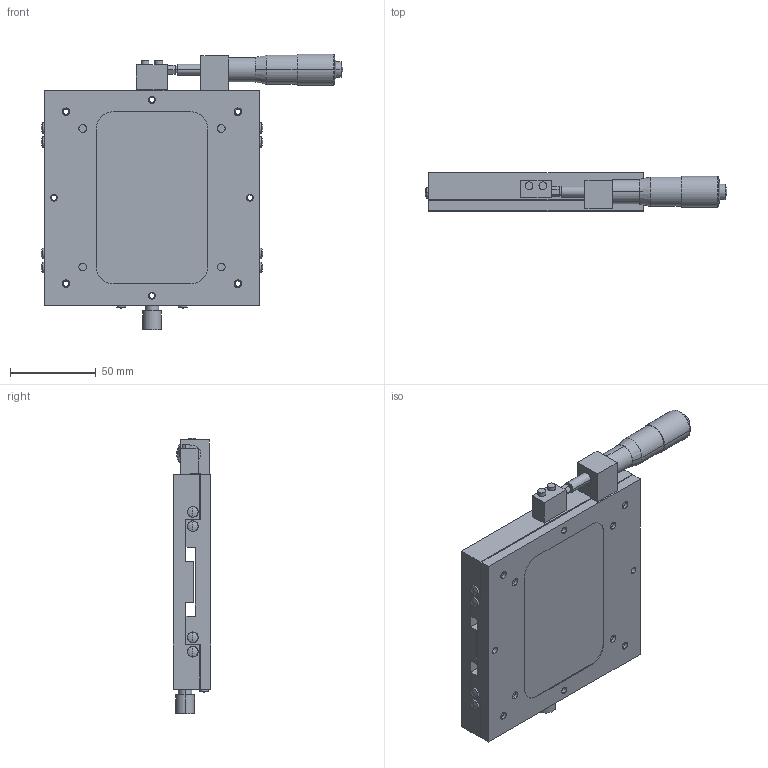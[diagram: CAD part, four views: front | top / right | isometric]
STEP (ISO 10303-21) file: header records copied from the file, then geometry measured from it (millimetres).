
FILE_DESCRIPTION (( 'STEP AP203' ), '1' );
FILE_NAME ('LS-147-S1.STEP', '2008-01-18T03:47:05', ( '' ), ( '' ), 'SwSTEP 2.0', 'SolidWorks 2007', '' );
FILE_SCHEMA (( 'CONFIG_CONTROL_DESIGN' ));
Length unit declared in the file: millimetre
Products named in the file (3): LS-147-S1; LS-147-S1-1_蹬怮椔; LS-147-S1-2_蹬怮椔
Assembly tree (2 placements, depth 2):
  LS-147-S1
    LS-147-S1-1_蹬怮椔
    LS-147-S1-2_蹬怮椔
Bounding box: 175.4 x 22 x 160.3 mm (x, y, z)
Volume: 334763.6 mm3; surface area: 96871.1 mm2
Topology: 3 solids, 3 shells, 294 faces, 703 edges, 460 vertices
Faces by surface type: cylinder 149, plane 97, cone 26, sphere 18, bspline 2, torus 2
Entity records: 9494 total; most frequent: CARTESIAN_POINT 1870, DIRECTION 1657, ORIENTED_EDGE 1402, EDGE_CURVE 701, AXIS2_PLACEMENT_3D 663, VERTEX_POINT 460, EDGE_LOOP 411, CIRCLE 366
